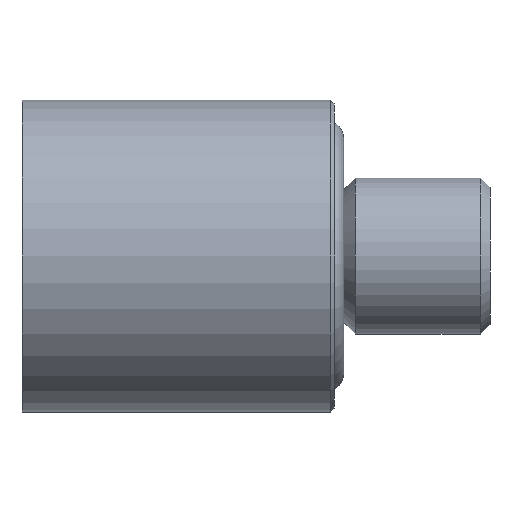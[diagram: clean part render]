
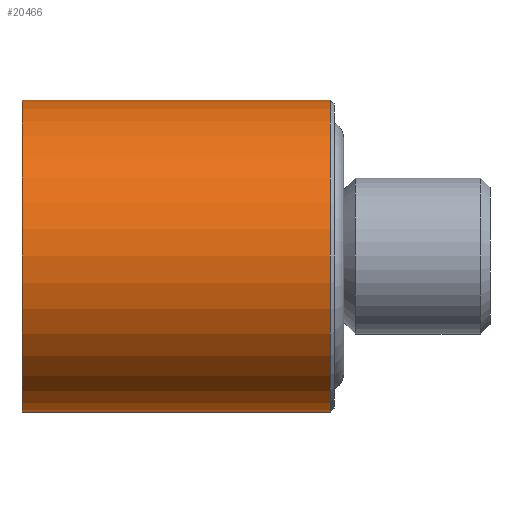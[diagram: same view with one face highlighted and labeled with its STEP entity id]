
A CAD part, left-side view. The second image highlights one B-rep face of the part: STEP entity #20466.
In plain terms, the highlighted cylindrical face has radius 8 mm (diameter 16 mm), a partial arc.
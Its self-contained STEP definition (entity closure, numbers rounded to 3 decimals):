
#21 = CARTESIAN_POINT ( 'NONE',  ( 0., 16., 8. ) ) ;
#799 = FACE_OUTER_BOUND ( 'NONE', #15961, .T. ) ;
#1045 = CARTESIAN_POINT ( 'NONE',  ( 0., 0., 0. ) ) ;
#1696 = DIRECTION ( 'NONE',  ( 0., 1., 0. ) ) ;
#2377 = ORIENTED_EDGE ( 'NONE', *, *, #21662, .F. ) ;
#2874 = CARTESIAN_POINT ( 'NONE',  ( 0., 0.2, -8. ) ) ;
#3038 = EDGE_CURVE ( 'NONE', #3094, #20535, #20552, .T. ) ;
#3094 = VERTEX_POINT ( 'NONE', #2874 ) ;
#3233 = AXIS2_PLACEMENT_3D ( 'NONE', #20399, #1696, #16206 ) ;
#5008 = CYLINDRICAL_SURFACE ( 'NONE', #22716, 8. ) ;
#8217 = CIRCLE ( 'NONE', #26683, 8. ) ;
#9971 = DIRECTION ( 'NONE',  ( 0., 1., 0. ) ) ;
#12749 = DIRECTION ( 'NONE',  ( 0., 0., 1. ) ) ;
#12857 = DIRECTION ( 'NONE',  ( 0., 1., 0. ) ) ;
#13056 = VECTOR ( 'NONE', #12857, 1000. ) ;
#13468 = ORIENTED_EDGE ( 'NONE', *, *, #14681, .T. ) ;
#13831 = VERTEX_POINT ( 'NONE', #24279 ) ;
#14473 = CARTESIAN_POINT ( 'NONE',  ( 0., 0.2, 0. ) ) ;
#14681 = EDGE_CURVE ( 'NONE', #13831, #17679, #22051, .T. ) ;
#15464 = DIRECTION ( 'NONE',  ( 0., 0., 1. ) ) ;
#15535 = VECTOR ( 'NONE', #9971, 1000. ) ;
#15961 = EDGE_LOOP ( 'NONE', ( #20838, #2377, #13468, #17095 ) ) ;
#16206 = DIRECTION ( 'NONE',  ( 0., 0., -1. ) ) ;
#17095 = ORIENTED_EDGE ( 'NONE', *, *, #22963, .F. ) ;
#17196 = CARTESIAN_POINT ( 'NONE',  ( 0., 0., -8. ) ) ;
#17679 = VERTEX_POINT ( 'NONE', #21 ) ;
#19326 = CIRCLE ( 'NONE', #3233, 8. ) ;
#20399 = CARTESIAN_POINT ( 'NONE',  ( 0., 16., 0. ) ) ;
#20466 = ADVANCED_FACE ( 'NONE', ( #799 ), #5008, .T. ) ;
#20535 = VERTEX_POINT ( 'NONE', #23786 ) ;
#20552 = LINE ( 'NONE', #17196, #13056 ) ;
#20838 = ORIENTED_EDGE ( 'NONE', *, *, #3038, .F. ) ;
#20856 = DIRECTION ( 'NONE',  ( 0., -1., 0. ) ) ;
#21662 = EDGE_CURVE ( 'NONE', #13831, #3094, #8217, .T. ) ;
#22051 = LINE ( 'NONE', #24379, #15535 ) ;
#22716 = AXIS2_PLACEMENT_3D ( 'NONE', #1045, #26096, #15464 ) ;
#22963 = EDGE_CURVE ( 'NONE', #20535, #17679, #19326, .T. ) ;
#23786 = CARTESIAN_POINT ( 'NONE',  ( 0., 16., -8. ) ) ;
#24279 = CARTESIAN_POINT ( 'NONE',  ( 0., 0.2, 8. ) ) ;
#24379 = CARTESIAN_POINT ( 'NONE',  ( 0., 0., 8. ) ) ;
#26096 = DIRECTION ( 'NONE',  ( 0., 1., 0. ) ) ;
#26683 = AXIS2_PLACEMENT_3D ( 'NONE', #14473, #20856, #12749 ) ;
